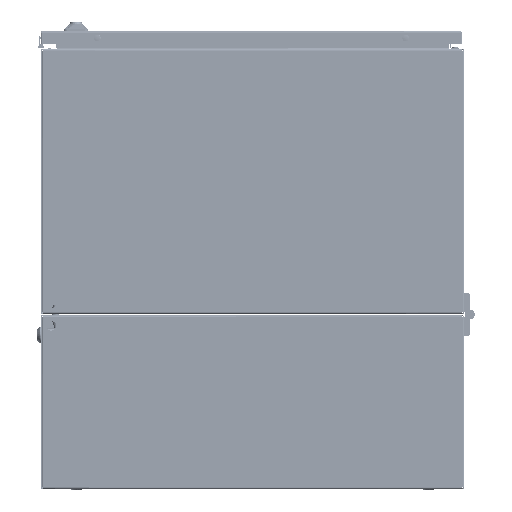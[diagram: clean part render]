
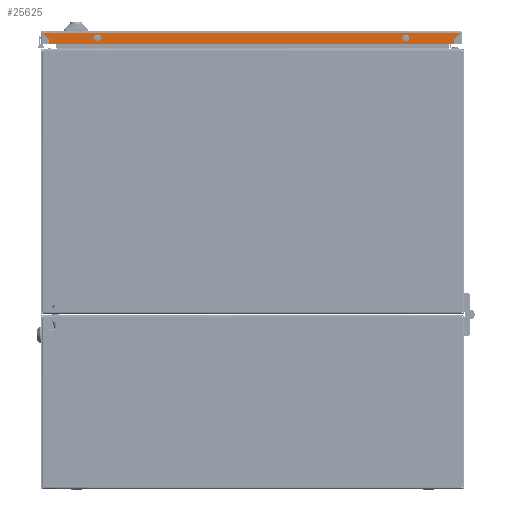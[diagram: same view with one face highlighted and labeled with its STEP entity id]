
A CAD part, front view. The second image highlights one B-rep face of the part: STEP entity #25625.
In plain terms, the highlighted planar face has unit normal (0, -1, 0).
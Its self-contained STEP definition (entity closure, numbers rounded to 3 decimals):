
#403 = CARTESIAN_POINT ( 'NONE',  ( 218.5, -248.5, 13.5 ) ) ;
#590 = PLANE ( 'NONE',  #101614 ) ;
#884 = CARTESIAN_POINT ( 'NONE',  ( 286.5, -248.5, 2.1 ) ) ;
#1410 = CARTESIAN_POINT ( 'NONE',  ( 286.5, -248.5, 18.5 ) ) ;
#4529 = VECTOR ( 'NONE', #144188, 1000. ) ;
#6937 = VECTOR ( 'NONE', #61862, 1000. ) ;
#10212 = ORIENTED_EDGE ( 'NONE', *, *, #105910, .F. ) ;
#10787 = DIRECTION ( 'NONE',  ( 0., -1., 0. ) ) ;
#10941 = ORIENTED_EDGE ( 'NONE', *, *, #94085, .F. ) ;
#11499 = ORIENTED_EDGE ( 'NONE', *, *, #73495, .T. ) ;
#11858 = AXIS2_PLACEMENT_3D ( 'NONE', #19923, #103042, #31879 ) ;
#11977 = DIRECTION ( 'NONE',  ( 0., 1., 0. ) ) ;
#12495 = EDGE_CURVE ( 'NONE', #14876, #17271, #64932, .T. ) ;
#14876 = VERTEX_POINT ( 'NONE', #46015 ) ;
#17238 = EDGE_CURVE ( 'NONE', #72993, #79593, #88216, .T. ) ;
#17271 = VERTEX_POINT ( 'NONE', #114788 ) ;
#19923 = CARTESIAN_POINT ( 'NONE',  ( -218.5, -248.5, 9.5 ) ) ;
#21518 = EDGE_CURVE ( 'NONE', #79593, #107276, #133140, .T. ) ;
#24487 = AXIS2_PLACEMENT_3D ( 'NONE', #106930, #35826, #118698 ) ;
#24724 = ORIENTED_EDGE ( 'NONE', *, *, #78640, .T. ) ;
#25625 = ADVANCED_FACE ( 'NONE', ( #51547, #114610, #79417 ), #590, .F. ) ;
#31879 = DIRECTION ( 'NONE',  ( 0., 0., -1. ) ) ;
#32790 = VECTOR ( 'NONE', #59525, 1000. ) ;
#35826 = DIRECTION ( 'NONE',  ( 0., -1., 0. ) ) ;
#36732 = VERTEX_POINT ( 'NONE', #113222 ) ;
#37028 = VERTEX_POINT ( 'NONE', #86881 ) ;
#40452 = CARTESIAN_POINT ( 'NONE',  ( 286.5, -248.5, 12. ) ) ;
#40751 = LINE ( 'NONE', #884, #100170 ) ;
#46015 = CARTESIAN_POINT ( 'NONE',  ( -218.5, -248.5, 13.5 ) ) ;
#48480 = VERTEX_POINT ( 'NONE', #132459 ) ;
#51547 = FACE_BOUND ( 'NONE', #98261, .T. ) ;
#52818 = EDGE_LOOP ( 'NONE', ( #105895, #24724, #11499, #120423, #92181, #92943 ) ) ;
#54736 = VERTEX_POINT ( 'NONE', #109827 ) ;
#55050 = CARTESIAN_POINT ( 'NONE',  ( 218.5, -248.5, 9.5 ) ) ;
#55891 = EDGE_CURVE ( 'NONE', #37028, #48480, #40751, .T. ) ;
#59203 = CARTESIAN_POINT ( 'NONE',  ( 286.5, -248.5, 1.5 ) ) ;
#59525 = DIRECTION ( 'NONE',  ( 0., 0., 1. ) ) ;
#59984 = VECTOR ( 'NONE', #76256, 1000. ) ;
#61454 = ORIENTED_EDGE ( 'NONE', *, *, #12495, .F. ) ;
#61862 = DIRECTION ( 'NONE',  ( 0., 0., -1. ) ) ;
#62523 = CARTESIAN_POINT ( 'NONE',  ( -286.5, -248.5, 18.5 ) ) ;
#64932 = CIRCLE ( 'NONE', #11858, 4. ) ;
#65079 = CARTESIAN_POINT ( 'NONE',  ( -286.5, -248.5, 18.5 ) ) ;
#65223 = AXIS2_PLACEMENT_3D ( 'NONE', #81989, #10787, #93961 ) ;
#67002 = DIRECTION ( 'NONE',  ( 0., 0., 1. ) ) ;
#67113 = EDGE_LOOP ( 'NONE', ( #148014, #61454 ) ) ;
#67545 = CIRCLE ( 'NONE', #118861, 4. ) ;
#72993 = VERTEX_POINT ( 'NONE', #1410 ) ;
#73495 = EDGE_CURVE ( 'NONE', #54736, #72993, #99713, .T. ) ;
#76256 = DIRECTION ( 'NONE',  ( -0.707, 0., 0.707 ) ) ;
#78640 = EDGE_CURVE ( 'NONE', #37028, #54736, #91592, .T. ) ;
#79417 = FACE_OUTER_BOUND ( 'NONE', #52818, .T. ) ;
#79593 = VERTEX_POINT ( 'NONE', #65079 ) ;
#81989 = CARTESIAN_POINT ( 'NONE',  ( -218.5, -248.5, 9.5 ) ) ;
#82183 = CARTESIAN_POINT ( 'NONE',  ( -286.5, -248.5, 12. ) ) ;
#82843 = VECTOR ( 'NONE', #123251, 1000. ) ;
#86554 = DIRECTION ( 'NONE',  ( 0., 0., 1. ) ) ;
#86881 = CARTESIAN_POINT ( 'NONE',  ( 296.4, -248.5, 2.1 ) ) ;
#88216 = LINE ( 'NONE', #133677, #4529 ) ;
#90121 = CIRCLE ( 'NONE', #24487, 4. ) ;
#91592 = LINE ( 'NONE', #40452, #59984 ) ;
#92181 = ORIENTED_EDGE ( 'NONE', *, *, #21518, .T. ) ;
#92943 = ORIENTED_EDGE ( 'NONE', *, *, #112281, .T. ) ;
#93961 = DIRECTION ( 'NONE',  ( 0., 0., -1. ) ) ;
#94085 = EDGE_CURVE ( 'NONE', #36732, #100745, #90121, .T. ) ;
#96040 = DIRECTION ( 'NONE',  ( -1., 0., 0. ) ) ;
#98261 = EDGE_LOOP ( 'NONE', ( #10941, #10212 ) ) ;
#99713 = LINE ( 'NONE', #106770, #32790 ) ;
#100170 = VECTOR ( 'NONE', #96040, 1000. ) ;
#100745 = VERTEX_POINT ( 'NONE', #403 ) ;
#101614 = AXIS2_PLACEMENT_3D ( 'NONE', #59203, #11977, #86554 ) ;
#103042 = DIRECTION ( 'NONE',  ( 0., -1., 0. ) ) ;
#103244 = CIRCLE ( 'NONE', #65223, 4. ) ;
#105895 = ORIENTED_EDGE ( 'NONE', *, *, #55891, .F. ) ;
#105910 = EDGE_CURVE ( 'NONE', #100745, #36732, #67545, .T. ) ;
#106770 = CARTESIAN_POINT ( 'NONE',  ( 286.5, -248.5, 18.5 ) ) ;
#106930 = CARTESIAN_POINT ( 'NONE',  ( 218.5, -248.5, 9.5 ) ) ;
#107276 = VERTEX_POINT ( 'NONE', #82183 ) ;
#109827 = CARTESIAN_POINT ( 'NONE',  ( 286.5, -248.5, 12. ) ) ;
#111349 = CARTESIAN_POINT ( 'NONE',  ( -286.5, -248.5, 12. ) ) ;
#112281 = EDGE_CURVE ( 'NONE', #107276, #48480, #114268, .T. ) ;
#113222 = CARTESIAN_POINT ( 'NONE',  ( 218.5, -248.5, 5.5 ) ) ;
#114268 = LINE ( 'NONE', #111349, #82843 ) ;
#114610 = FACE_BOUND ( 'NONE', #67113, .T. ) ;
#114788 = CARTESIAN_POINT ( 'NONE',  ( -218.5, -248.5, 5.5 ) ) ;
#118698 = DIRECTION ( 'NONE',  ( 0., 0., 1. ) ) ;
#118861 = AXIS2_PLACEMENT_3D ( 'NONE', #55050, #137904, #67002 ) ;
#120423 = ORIENTED_EDGE ( 'NONE', *, *, #17238, .T. ) ;
#123251 = DIRECTION ( 'NONE',  ( -0.707, 0., -0.707 ) ) ;
#132459 = CARTESIAN_POINT ( 'NONE',  ( -296.4, -248.5, 2.1 ) ) ;
#133140 = LINE ( 'NONE', #62523, #6937 ) ;
#133677 = CARTESIAN_POINT ( 'NONE',  ( -286.5, -248.5, 18.5 ) ) ;
#137904 = DIRECTION ( 'NONE',  ( 0., -1., 0. ) ) ;
#140420 = EDGE_CURVE ( 'NONE', #17271, #14876, #103244, .T. ) ;
#144188 = DIRECTION ( 'NONE',  ( -1., 0., 0. ) ) ;
#148014 = ORIENTED_EDGE ( 'NONE', *, *, #140420, .F. ) ;
